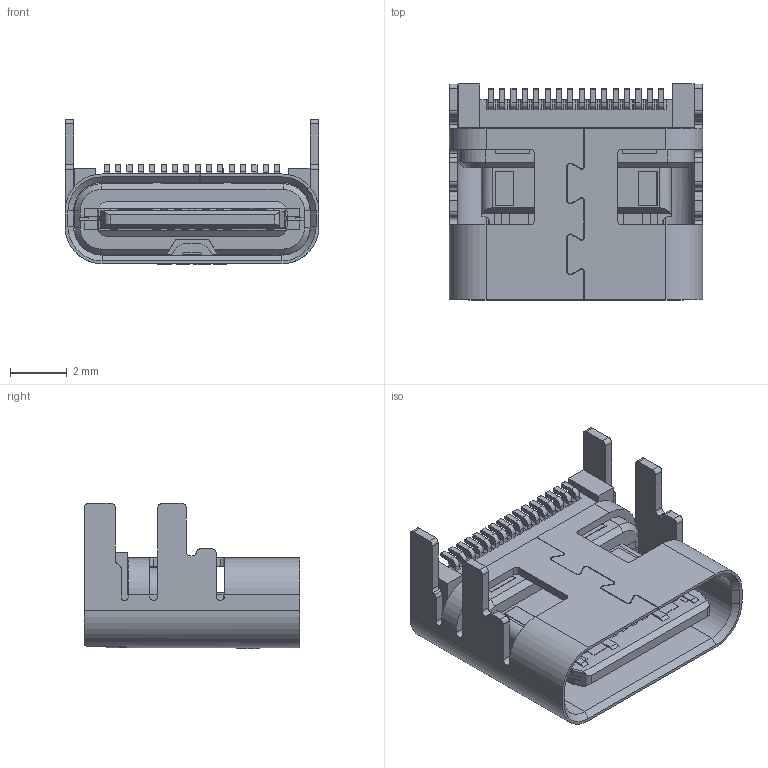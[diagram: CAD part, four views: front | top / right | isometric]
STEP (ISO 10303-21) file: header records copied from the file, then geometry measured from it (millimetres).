
FILE_DESCRIPTION (( 'STEP AP203' ), '1' );
FILE_NAME ('U5213-16PN0.3G7.6L.STEP', '2026-09-17T07:24:09', ( '' ), ( '' ), 'SwSTEP 2.0', 'SolidWorks 2024', '' );
FILE_SCHEMA (( 'CONFIG_CONTROL_DESIGN' ));
Length unit declared in the file: millimetre
Products named in the file (1): U5213-16PN0.3G7.6L
Bounding box: 8.94 x 7.6 x 5.11 mm (x, y, z)
Volume: 116.3 mm3; surface area: 479.8 mm2
Topology: 1 solids, 1 shells, 831 faces, 2456 edges, 1628 vertices
Faces by surface type: plane 614, cylinder 182, bspline 25, cone 10
Entity records: 29011 total; most frequent: CARTESIAN_POINT 6602, ORIENTED_EDGE 4912, DIRECTION 4358, EDGE_CURVE 2456, LINE 2006, VECTOR 2006, VERTEX_POINT 1628, AXIS2_PLACEMENT_3D 1176
